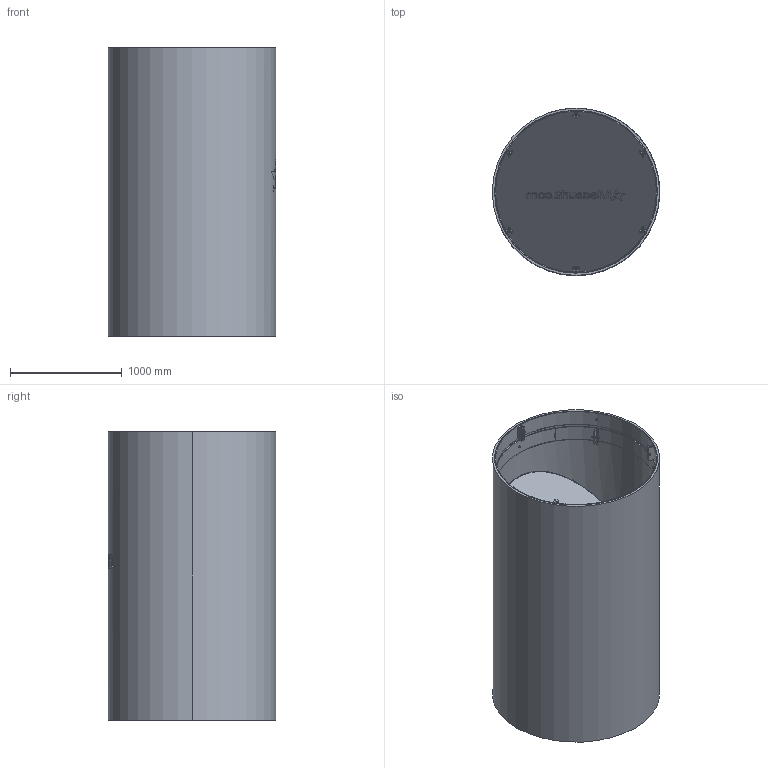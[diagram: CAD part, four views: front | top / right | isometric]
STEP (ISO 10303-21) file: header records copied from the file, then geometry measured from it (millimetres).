
FILE_DESCRIPTION (( 'STEP AP214' ), '1' );
FILE_NAME ('CF-IL-G5-PRO-S1500-NN-316-IDP.STEP', '2023-02-13T16:53:26', ( '' ), ( '' ), 'SwSTEP 2.0', 'SolidWorks 2022', '' );
FILE_SCHEMA (( 'AUTOMOTIVE_DESIGN' ));
Length unit declared in the file: millimetre
Products named in the file (3): CF-IL-G5-PRO-S1500-NN-316-IDP_CM-0100-B; Clamp 1500_1500; CF-IL-G5-PRO-S1500-NN-316-IDP
Assembly tree (3 placements, depth 2):
  CF-IL-G5-PRO-S1500-NN-316-IDP
    CF-IL-G5-PRO-S1500-NN-316-IDP_CM-0100-B
    Clamp 1500_1500  x2
Bounding box: 1500.49 x 1500.5 x 2590 mm (x, y, z)
Volume: 288372061.2 mm3; surface area: 31841641.2 mm2
Topology: 37 solids, 37 shells, 3165 faces, 8091 edges, 5037 vertices
Faces by surface type: plane 1016, cone 810, bspline 674, cylinder 665
Entity records: 98264 total; most frequent: CARTESIAN_POINT 31824, ORIENTED_EDGE 12378, DIRECTION 7404, EDGE_CURVE 6189, VERTEX_POINT 3958, B_SPLINE_CURVE_WITH_KNOTS 2711, VECTOR 2694, LINE 2694
